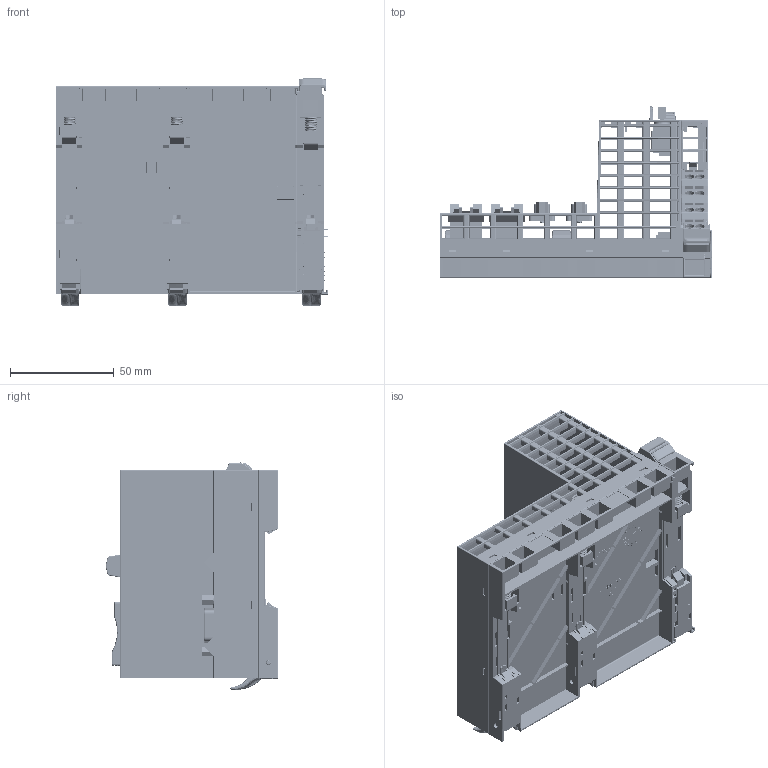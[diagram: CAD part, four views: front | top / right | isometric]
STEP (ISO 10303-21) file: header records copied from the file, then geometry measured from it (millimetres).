
FILE_DESCRIPTION((''),'2;1');
FILE_NAME('SLIO-TYPE08','2022-04-05T14:26:13',('TReuther'),(''),'CREO PARAMETRIC BY PTC INC, 2020454','CREO PARAMETRIC BY PTC INC, 2020454','');
FILE_SCHEMA(('CONFIG_CONTROL_DESIGN','SHAPE_APPEARANCE_LAYERS_GROUPS'));
Products named in the file (1): SLIO-TYPE08
Bounding box: 131.2 x 82.82 x 109.48 mm (x, y, z)
Volume: 107666 mm3; surface area: 201995.6 mm2
Topology: 2 solids, 2 shells, 24582 faces, 71523 edges, 46399 vertices
Faces by surface type: plane 19128, cylinder 3605, torus 719, bspline 596, cone 368, sphere 134, extrusion 32
Entity records: 1026474 total; most frequent: CARTESIAN_POINT 214284, ORIENTED_EDGE 142988, DIRECTION 122390, EDGE_CURVE 71494, VECTOR 59196, LINE 59164, VERTEX_POINT 46399, AXIS2_PLACEMENT_3D 31597
